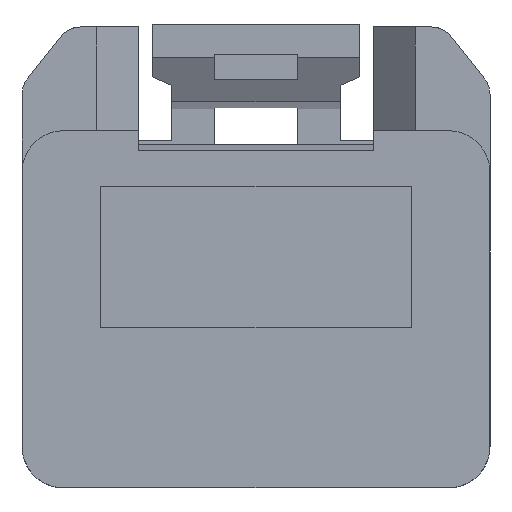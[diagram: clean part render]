
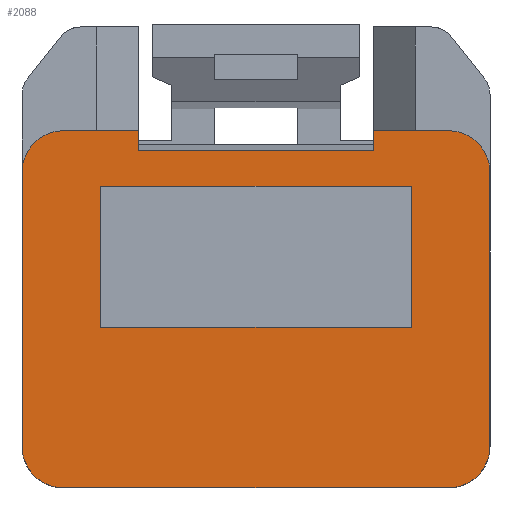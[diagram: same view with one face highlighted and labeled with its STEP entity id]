
A CAD part, left-side view. The second image highlights one B-rep face of the part: STEP entity #2088.
In plain terms, the highlighted planar face has unit normal (-1, 0, 0).
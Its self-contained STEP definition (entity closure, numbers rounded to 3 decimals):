
#1732=AXIS2_PLACEMENT_3D('Circle Axis2P3D',#1730,#1731,$) ;
#1790=AXIS2_PLACEMENT_3D('Circle Axis2P3D',#1788,#1789,$) ;
#2002=AXIS2_PLACEMENT_3D('Circle Axis2P3D',#2000,#2001,$) ;
#2049=AXIS2_PLACEMENT_3D('Plane Axis2P3D',#2046,#2047,#2048) ;
#2053=AXIS2_PLACEMENT_3D('Circle Axis2P3D',#2051,#2052,$) ;
#392=CARTESIAN_POINT('Vertex',(-32.4,4.25,2.85)) ;
#395=CARTESIAN_POINT('Line Origine',(-32.4,0.,2.85)) ;
#399=CARTESIAN_POINT('Vertex',(-32.4,-4.25,2.85)) ;
#1366=CARTESIAN_POINT('Line Origine',(-32.4,0.,1.55)) ;
#1370=CARTESIAN_POINT('Vertex',(-32.4,5.6,1.55)) ;
#1372=CARTESIAN_POINT('Vertex',(-32.4,-5.6,1.55)) ;
#1406=CARTESIAN_POINT('Line Origine',(-32.4,5.6,-1.)) ;
#1410=CARTESIAN_POINT('Vertex',(-32.4,5.6,-3.55)) ;
#1437=CARTESIAN_POINT('Line Origine',(-32.4,0.,-3.55)) ;
#1441=CARTESIAN_POINT('Vertex',(-32.4,-5.6,-3.55)) ;
#1468=CARTESIAN_POINT('Line Origine',(-32.4,-5.6,-1.)) ;
#1515=CARTESIAN_POINT('Vertex',(-32.4,4.25,3.55)) ;
#1518=CARTESIAN_POINT('Line Origine',(-32.4,4.25,3.2)) ;
#1628=CARTESIAN_POINT('Line Origine',(-32.4,-4.25,3.2)) ;
#1632=CARTESIAN_POINT('Vertex',(-32.4,-4.25,3.55)) ;
#1704=CARTESIAN_POINT('Vertex',(-32.4,-6.95,3.55)) ;
#1712=CARTESIAN_POINT('Line Origine',(-32.4,-5.6,3.55)) ;
#1730=CARTESIAN_POINT('Axis2P3D Location',(-32.4,-6.95,2.05)) ;
#1734=CARTESIAN_POINT('Vertex',(-32.4,-8.45,2.05)) ;
#1762=CARTESIAN_POINT('Vertex',(-32.4,6.95,3.55)) ;
#1765=CARTESIAN_POINT('Line Origine',(-32.4,5.6,3.55)) ;
#1788=CARTESIAN_POINT('Axis2P3D Location',(-32.4,6.95,2.05)) ;
#1792=CARTESIAN_POINT('Vertex',(-32.4,8.45,2.05)) ;
#1997=CARTESIAN_POINT('Vertex',(-32.4,6.95,-9.35)) ;
#2000=CARTESIAN_POINT('Axis2P3D Location',(-32.4,6.95,-7.85)) ;
#2004=CARTESIAN_POINT('Vertex',(-32.4,8.45,-7.85)) ;
#2024=CARTESIAN_POINT('Vertex',(-32.4,-6.95,-9.35)) ;
#2029=CARTESIAN_POINT('Line Origine',(-32.4,0.,-9.35)) ;
#2046=CARTESIAN_POINT('Axis2P3D Location',(-32.4,0.,3.55)) ;
#2051=CARTESIAN_POINT('Axis2P3D Location',(-32.4,-6.95,-7.85)) ;
#2055=CARTESIAN_POINT('Vertex',(-32.4,-8.45,-7.85)) ;
#2058=CARTESIAN_POINT('Line Origine',(-32.4,-8.45,-2.9)) ;
#2063=CARTESIAN_POINT('Line Origine',(-32.4,8.45,-2.9)) ;
#396=DIRECTION('Vector Direction',(0.,1.,0.)) ;
#1367=DIRECTION('Vector Direction',(0.,-1.,0.)) ;
#1407=DIRECTION('Vector Direction',(0.,0.,1.)) ;
#1438=DIRECTION('Vector Direction',(0.,1.,0.)) ;
#1469=DIRECTION('Vector Direction',(0.,0.,-1.)) ;
#1519=DIRECTION('Vector Direction',(0.,0.,-1.)) ;
#1629=DIRECTION('Vector Direction',(0.,0.,-1.)) ;
#1713=DIRECTION('Vector Direction',(0.,1.,0.)) ;
#1731=DIRECTION('Axis2P3D Direction',(-1.,0.,0.)) ;
#1766=DIRECTION('Vector Direction',(0.,1.,0.)) ;
#1789=DIRECTION('Axis2P3D Direction',(-1.,0.,0.)) ;
#2001=DIRECTION('Axis2P3D Direction',(1.,0.,0.)) ;
#2030=DIRECTION('Vector Direction',(0.,1.,0.)) ;
#2047=DIRECTION('Axis2P3D Direction',(1.,-0.,0.)) ;
#2048=DIRECTION('Axis2P3D XDirection',(0.,0.,-1.)) ;
#2052=DIRECTION('Axis2P3D Direction',(1.,-0.,0.)) ;
#2059=DIRECTION('Vector Direction',(0.,0.,-1.)) ;
#2064=DIRECTION('Vector Direction',(0.,0.,-1.)) ;
#397=VECTOR('Line Direction',#396,1.) ;
#1368=VECTOR('Line Direction',#1367,1.) ;
#1408=VECTOR('Line Direction',#1407,1.) ;
#1439=VECTOR('Line Direction',#1438,1.) ;
#1470=VECTOR('Line Direction',#1469,1.) ;
#1520=VECTOR('Line Direction',#1519,1.) ;
#1630=VECTOR('Line Direction',#1629,1.) ;
#1714=VECTOR('Line Direction',#1713,1.) ;
#1767=VECTOR('Line Direction',#1766,1.) ;
#2031=VECTOR('Line Direction',#2030,1.) ;
#2060=VECTOR('Line Direction',#2059,1.) ;
#2065=VECTOR('Line Direction',#2064,1.) ;
#2069=ORIENTED_EDGE('',*,*,#2057,.F.) ;
#2070=ORIENTED_EDGE('',*,*,#2062,.F.) ;
#2071=ORIENTED_EDGE('',*,*,#1736,.F.) ;
#2072=ORIENTED_EDGE('',*,*,#1716,.T.) ;
#2073=ORIENTED_EDGE('',*,*,#1634,.F.) ;
#2074=ORIENTED_EDGE('',*,*,#401,.T.) ;
#2075=ORIENTED_EDGE('',*,*,#1522,.T.) ;
#2076=ORIENTED_EDGE('',*,*,#1769,.T.) ;
#2077=ORIENTED_EDGE('',*,*,#1794,.F.) ;
#2078=ORIENTED_EDGE('',*,*,#2067,.T.) ;
#2079=ORIENTED_EDGE('',*,*,#2006,.F.) ;
#2080=ORIENTED_EDGE('',*,*,#2033,.F.) ;
#2083=ORIENTED_EDGE('',*,*,#1443,.T.) ;
#2084=ORIENTED_EDGE('',*,*,#1412,.T.) ;
#2085=ORIENTED_EDGE('',*,*,#1374,.T.) ;
#2086=ORIENTED_EDGE('',*,*,#1472,.T.) ;
#2087=FACE_BOUND('',#2082,.T.) ;
#2088=ADVANCED_FACE('HSG \X2\306E7D50679C\X0\',(#2081,#2087),#2050,.F.) ;
#1733=CIRCLE('generated circle',#1732,1.5) ;
#1791=CIRCLE('generated circle',#1790,1.5) ;
#2003=CIRCLE('generated circle',#2002,1.5) ;
#2054=CIRCLE('generated circle',#2053,1.5) ;
#401=EDGE_CURVE('',#400,#393,#398,.T.) ;
#1374=EDGE_CURVE('',#1371,#1373,#1369,.T.) ;
#1412=EDGE_CURVE('',#1411,#1371,#1409,.T.) ;
#1443=EDGE_CURVE('',#1442,#1411,#1440,.T.) ;
#1472=EDGE_CURVE('',#1373,#1442,#1471,.T.) ;
#1522=EDGE_CURVE('',#393,#1516,#1521,.F.) ;
#1634=EDGE_CURVE('',#400,#1633,#1631,.F.) ;
#1716=EDGE_CURVE('',#1705,#1633,#1715,.T.) ;
#1736=EDGE_CURVE('',#1705,#1735,#1733,.F.) ;
#1769=EDGE_CURVE('',#1516,#1763,#1768,.T.) ;
#1794=EDGE_CURVE('',#1793,#1763,#1791,.F.) ;
#2006=EDGE_CURVE('',#1998,#2005,#2003,.T.) ;
#2033=EDGE_CURVE('',#2025,#1998,#2032,.T.) ;
#2057=EDGE_CURVE('',#2056,#2025,#2054,.T.) ;
#2062=EDGE_CURVE('',#1735,#2056,#2061,.T.) ;
#2067=EDGE_CURVE('',#1793,#2005,#2066,.T.) ;
#2068=EDGE_LOOP('',(#2069,#2070,#2071,#2072,#2073,#2074,#2075,#2076,#2077,#2078,#2079,#2080)) ;
#2082=EDGE_LOOP('',(#2083,#2084,#2085,#2086)) ;
#2081=FACE_OUTER_BOUND('',#2068,.T.) ;
#398=LINE('Line',#395,#397) ;
#1369=LINE('Line',#1366,#1368) ;
#1409=LINE('Line',#1406,#1408) ;
#1440=LINE('Line',#1437,#1439) ;
#1471=LINE('Line',#1468,#1470) ;
#1521=LINE('Line',#1518,#1520) ;
#1631=LINE('Line',#1628,#1630) ;
#1715=LINE('Line',#1712,#1714) ;
#1768=LINE('Line',#1765,#1767) ;
#2032=LINE('Line',#2029,#2031) ;
#2061=LINE('Line',#2058,#2060) ;
#2066=LINE('Line',#2063,#2065) ;
#2050=PLANE('',#2049) ;
#393=VERTEX_POINT('',#392) ;
#400=VERTEX_POINT('',#399) ;
#1371=VERTEX_POINT('',#1370) ;
#1373=VERTEX_POINT('',#1372) ;
#1411=VERTEX_POINT('',#1410) ;
#1442=VERTEX_POINT('',#1441) ;
#1516=VERTEX_POINT('',#1515) ;
#1633=VERTEX_POINT('',#1632) ;
#1705=VERTEX_POINT('',#1704) ;
#1735=VERTEX_POINT('',#1734) ;
#1763=VERTEX_POINT('',#1762) ;
#1793=VERTEX_POINT('',#1792) ;
#1998=VERTEX_POINT('',#1997) ;
#2005=VERTEX_POINT('',#2004) ;
#2025=VERTEX_POINT('',#2024) ;
#2056=VERTEX_POINT('',#2055) ;
